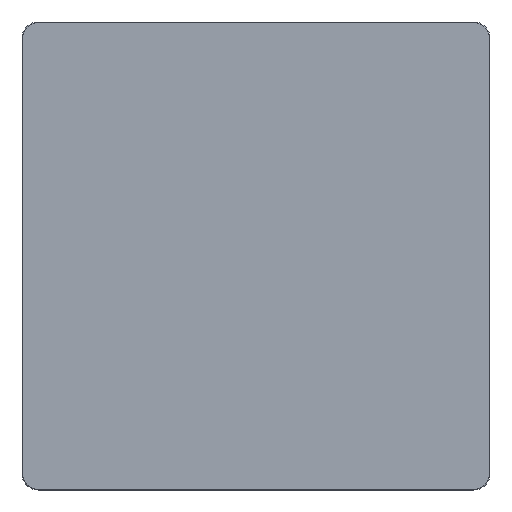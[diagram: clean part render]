
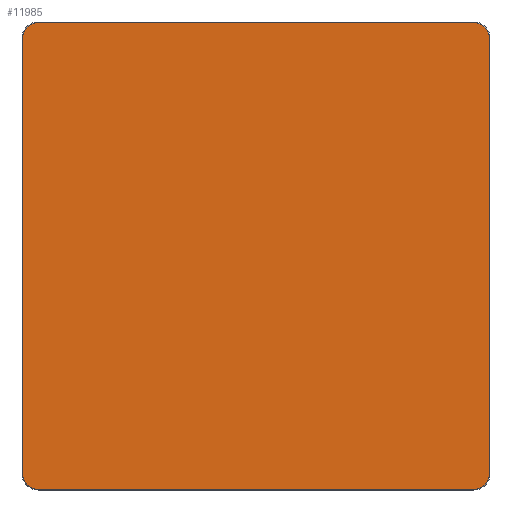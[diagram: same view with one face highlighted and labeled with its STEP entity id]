
A CAD part, top view. The second image highlights one B-rep face of the part: STEP entity #11985.
In plain terms, the highlighted planar face has unit normal (0, 0, 1).
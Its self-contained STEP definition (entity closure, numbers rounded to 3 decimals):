
#11910=CARTESIAN_POINT('',(0.,0.,20.));
#11911=DIRECTION('',(1.,0.,0.));
#11912=DIRECTION('',(0.,0.,1.));
#11913=AXIS2_PLACEMENT_3D('',#11910,#11912,#11911);
#11914=PLANE('',#11913);
#11915=CARTESIAN_POINT('',(-465.,-498.5,20.));
#11916=VERTEX_POINT('',#11915);
#11917=CARTESIAN_POINT('',(465.,-498.5,20.));
#11918=VERTEX_POINT('',#11917);
#11919=CARTESIAN_POINT('',(-465.,-498.5,20.));
#11920=DIRECTION('',(1.,0.,0.));
#11921=VECTOR('',#11920,930.);
#11922=LINE('',#11919,#11921);
#11923=EDGE_CURVE('',#11916,#11918,#11922,.T.);
#11924=ORIENTED_EDGE('E105',*,*,#11923,.T.);
#11925=CARTESIAN_POINT('',(498.5,-465.,20.));
#11926=VERTEX_POINT('',#11925);
#11927=CARTESIAN_POINT('',(465.,-465.,20.));
#11928=DIRECTION('',(0.,-1.,0.));
#11929=DIRECTION('',(0.,0.,1.));
#11930=AXIS2_PLACEMENT_3D('',#11927,#11929,#11928);
#11931=CIRCLE('',#11930,33.5);
#11932=EDGE_CURVE('',#11918,#11926,#11931,.T.);
#11933=ORIENTED_EDGE('E107',*,*,#11932,.T.);
#11934=CARTESIAN_POINT('',(498.5,465.,20.));
#11935=VERTEX_POINT('',#11934);
#11936=CARTESIAN_POINT('',(498.5,-465.,20.));
#11937=DIRECTION('',(0.,1.,0.));
#11938=VECTOR('',#11937,930.);
#11939=LINE('',#11936,#11938);
#11940=EDGE_CURVE('',#11926,#11935,#11939,.T.);
#11941=ORIENTED_EDGE('E109',*,*,#11940,.T.);
#11942=CARTESIAN_POINT('',(465.,498.5,20.));
#11943=VERTEX_POINT('',#11942);
#11944=CARTESIAN_POINT('',(465.,465.,20.));
#11945=DIRECTION('',(1.,0.,0.));
#11946=DIRECTION('',(0.,0.,1.));
#11947=AXIS2_PLACEMENT_3D('',#11944,#11946,#11945);
#11948=CIRCLE('',#11947,33.5);
#11949=EDGE_CURVE('',#11935,#11943,#11948,.T.);
#11950=ORIENTED_EDGE('E111',*,*,#11949,.T.);
#11951=CARTESIAN_POINT('',(-465.,498.5,20.));
#11952=VERTEX_POINT('',#11951);
#11953=CARTESIAN_POINT('',(465.,498.5,20.));
#11954=DIRECTION('',(-1.,0.,0.));
#11955=VECTOR('',#11954,930.);
#11956=LINE('',#11953,#11955);
#11957=EDGE_CURVE('',#11943,#11952,#11956,.T.);
#11958=ORIENTED_EDGE('E113',*,*,#11957,.T.);
#11959=CARTESIAN_POINT('',(-498.5,465.,20.));
#11960=VERTEX_POINT('',#11959);
#11961=CARTESIAN_POINT('',(-465.,465.,20.));
#11962=DIRECTION('',(0.,1.,0.));
#11963=DIRECTION('',(0.,0.,1.));
#11964=AXIS2_PLACEMENT_3D('',#11961,#11963,#11962);
#11965=CIRCLE('',#11964,33.5);
#11966=EDGE_CURVE('',#11952,#11960,#11965,.T.);
#11967=ORIENTED_EDGE('E115',*,*,#11966,.T.);
#11968=CARTESIAN_POINT('',(-498.5,-465.,20.));
#11969=VERTEX_POINT('',#11968);
#11970=CARTESIAN_POINT('',(-498.5,465.,20.));
#11971=DIRECTION('',(0.,-1.,0.));
#11972=VECTOR('',#11971,930.);
#11973=LINE('',#11970,#11972);
#11974=EDGE_CURVE('',#11960,#11969,#11973,.T.);
#11975=ORIENTED_EDGE('E117',*,*,#11974,.T.);
#11976=CARTESIAN_POINT('',(-465.,-465.,20.));
#11977=DIRECTION('',(-1.,0.,0.));
#11978=DIRECTION('',(0.,0.,1.));
#11979=AXIS2_PLACEMENT_3D('',#11976,#11978,#11977);
#11980=CIRCLE('',#11979,33.5);
#11981=EDGE_CURVE('',#11969,#11916,#11980,.T.);
#11982=ORIENTED_EDGE('E119',*,*,#11981,.T.);
#11983=EDGE_LOOP('',(#11924,#11933,#11941,#11950,#11958,#11967,#11975,#11982));
#11984=FACE_OUTER_BOUND('',#11983,.T.);
#11985=ADVANCED_FACE('F2',(#11984),#11914,.T.);
